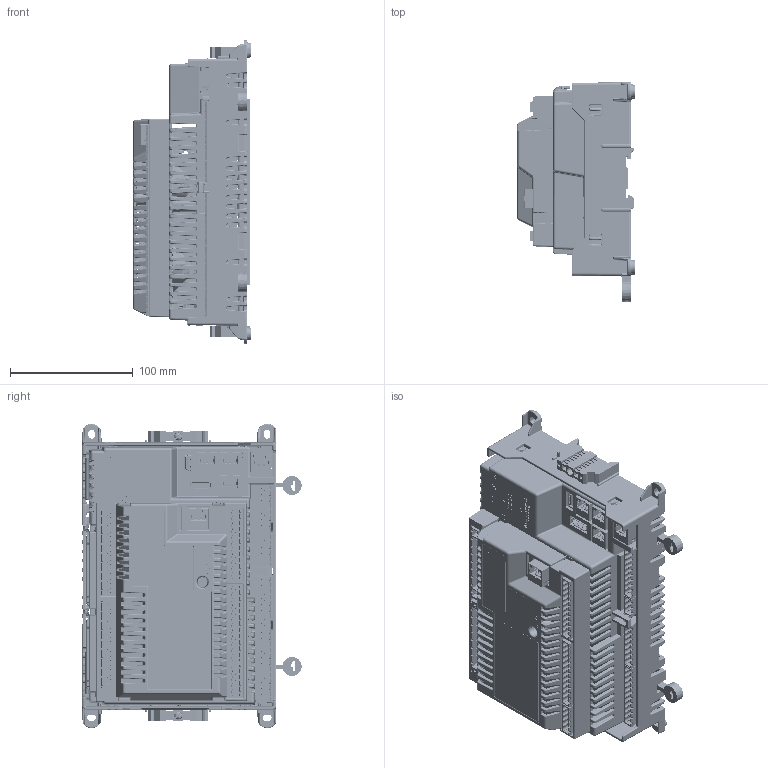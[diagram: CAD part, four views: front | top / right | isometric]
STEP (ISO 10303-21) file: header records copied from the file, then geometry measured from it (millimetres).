
FILE_DESCRIPTION(/* description */ (''),/* implementation_level */ '2;1');
FILE_NAME(/* name */ 'iE250_Basemount_w_MIO_20240205.stp',/* time_stamp */ '2024-02-05T17:13:26+01:00',/* author */ ('rsj'),/* organization */ (''),/* preprocessor_version */ 'ST-DEVELOPER v19.2',/* originating_system */ 'Autodesk Inventor 2023',/* authorisation */ '');
FILE_SCHEMA (('AUTOMOTIVE_DESIGN { 1 0 10303 214 3 1 1 }'));
Products named in the file (1): Skabsmonteret samling_Simplify_2
Bounding box: 96.2 x 178.69 x 248.04 mm (x, y, z)
Volume: 1354101.6 mm3; surface area: 472873.4 mm2
Topology: 2 solids, 2 shells, 19435 faces, 52691 edges, 32866 vertices
Faces by surface type: plane 9918, cylinder 5322, bspline 3400, sphere 557, cone 119, torus 119
Full cylindrical faces by diameter (mm): 0.298 x1, 0.399 x2, 0.433 x1, 0.434 x5, 0.9 x2, 1 x2, 1.4 x33, 1.6 x1, 2 x2, 2.8 x27, 3 x1, 3.2 x1, 4.5 x3, 4.6 x3, 6 x1, 6.9 x3, 7 x3, 9 x4
Entity records: 756497 total; most frequent: CARTESIAN_POINT 282759, ORIENTED_EDGE 104730, DIRECTION 90866, EDGE_CURVE 52365, LINE 33610, VECTOR 33610, VERTEX_POINT 32862, AXIS2_PLACEMENT_3D 28628
